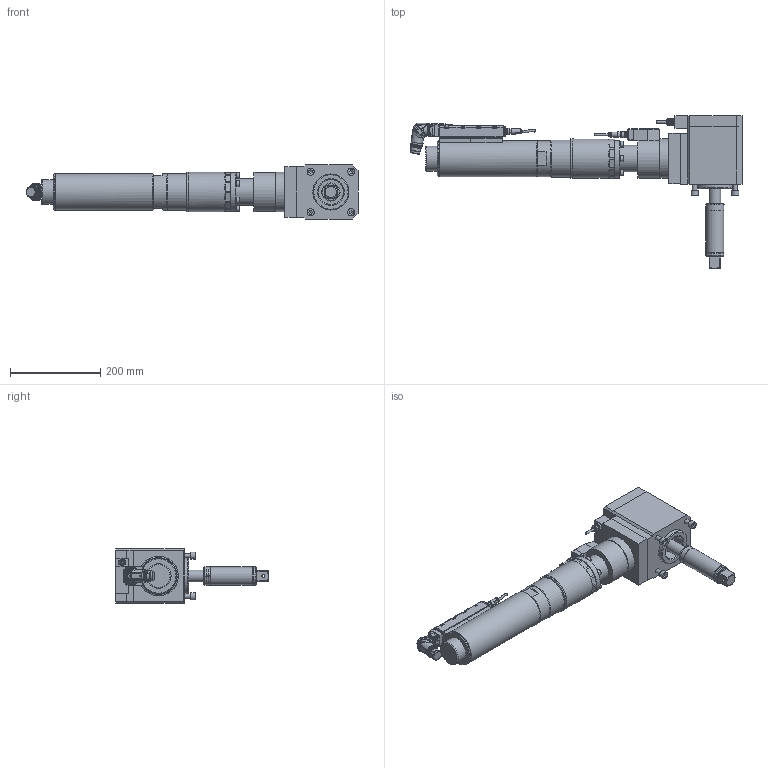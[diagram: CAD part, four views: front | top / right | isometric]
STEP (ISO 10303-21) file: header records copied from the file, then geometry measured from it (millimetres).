
FILE_DESCRIPTION (( 'STEP AP214' ), '1' );
FILE_NAME ('70082537_ESX461ZWRX800AWDX460-800.STEP', '2016-11-15T12:01:43', ( 'admin' ), ( '' ), 'SwSTEP 2.0', 'SolidWorks 2014', '' );
FILE_SCHEMA (( 'AUTOMOTIVE_DESIGN' ));
Length unit declared in the file: millimetre
Products named in the file (11): 7006176_3; 70082406; 70082336; 70082311_ESX461_Standard_Winkel_2; 70082293_2; 70057493_Standard_winkel; 70057493_4; 70057493_3; 70057493_2; 70082311; 70082537_ESX461ZWRX800AWDX460-800
Assembly tree (11 placements, depth 4):
  70082537_ESX461ZWRX800AWDX460-800
    70082311_ESX461_Standard_Winkel_2
      70082311
      70057493_Standard_winkel
        70057493_2
        70057493_3
        70057493_4
      70082293_2  x2
    70082336
    70082406
    7006176_3
Bounding box: 735.76 x 338 x 120 mm (x, y, z)
Volume: 5930332.4 mm3; surface area: 442333.9 mm2
Topology: 13 solids, 13 shells, 2773 faces, 7132 edges, 4614 vertices
Faces by surface type: plane 1350, cylinder 724, cone 349, bspline 270, torus 76, sphere 4
Full cylindrical faces by diameter (mm): 0.5 x14, 0.57 x14, 2 x3, 2.5 x1, 3 x4, 4.2 x1, 4.9 x4, 5 x9, 5.5 x12, 6 x3, 6.8 x12, 8 x34, 8.459 x2, 9 x2, 9.1 x1, 9.5 x1, 9.7 x1, 10 x4, 11.08 x2, 11.7 x1, 12 x1, 12.3 x2, 13 x13, 14 x5, 14.5 x2, 16 x4, 17.4 x1, 20 x1, 21.15 x1, 21.5 x1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
Entity records: 92721 total; most frequent: CARTESIAN_POINT 30880, ORIENTED_EDGE 12616, DIRECTION 11157, EDGE_CURVE 6308, VERTEX_POINT 4279, AXIS2_PLACEMENT_3D 4145, EDGE_LOOP 3251, FACE_OUTER_BOUND 2884
